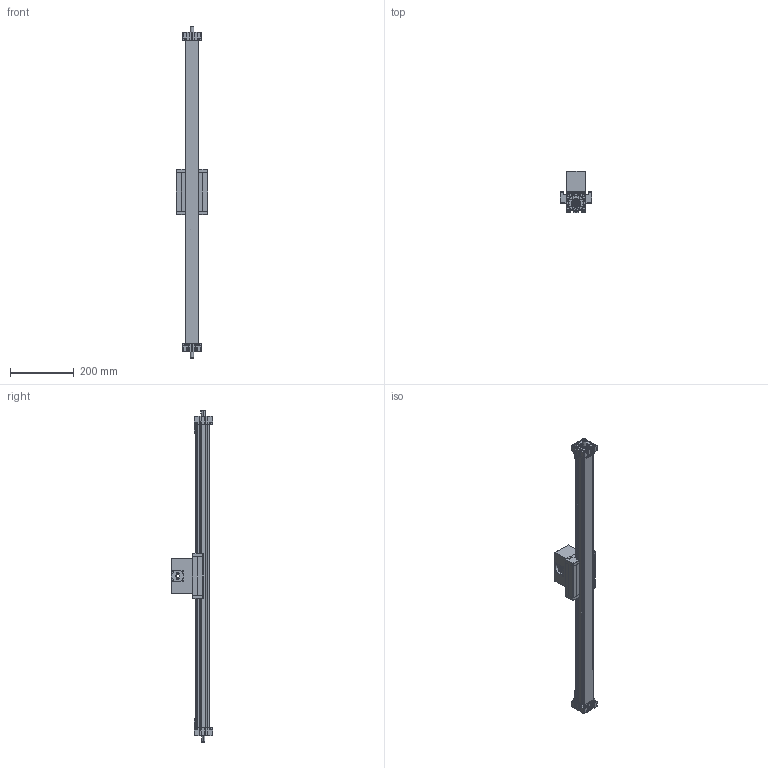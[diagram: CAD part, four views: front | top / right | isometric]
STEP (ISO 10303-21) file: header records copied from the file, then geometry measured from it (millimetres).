
FILE_DESCRIPTION (( 'STEP AP214' ), '1' );
FILE_NAME ('ELSD40.STEP', '2022-07-21T11:11:39', ( '' ), ( '' ), 'SwSTEP 2.0', 'SolidWorks 2020', '' );
FILE_SCHEMA (( 'AUTOMOTIVE_DESIGN' ));
Length unit declared in the file: millimetre
Products named in the file (6): carriage^ELSD40_carriage version 0; drive block^ELSD40_4x guide rods ; timing belt reverse unit^ELSD40_coupling claw pos.1; load block^ELSD40_standard; ELSD40; profile^ELSD40_2x guide rods
Assembly tree (5 placements, depth 2):
  ELSD40
    profile^ELSD40_2x guide rods
    carriage^ELSD40_carriage version 0
    timing belt reverse unit^ELSD40_coupling claw pos.1
    load block^ELSD40_standard
    drive block^ELSD40_4x guide rods 
Bounding box: 100 x 129 x 1040 mm (x, y, z)
Volume: 1732387.8 mm3; surface area: 497720 mm2
Topology: 14 solids, 14 shells, 984 faces, 2756 edges, 1816 vertices
Faces by surface type: plane 675, cylinder 265, cone 32, torus 8, sphere 4
Entity records: 33030 total; most frequent: CARTESIAN_POINT 5776, ORIENTED_EDGE 5504, DIRECTION 5258, EDGE_CURVE 2752, VECTOR 2150, LINE 2150, VERTEX_POINT 1816, AXIS2_PLACEMENT_3D 1554
